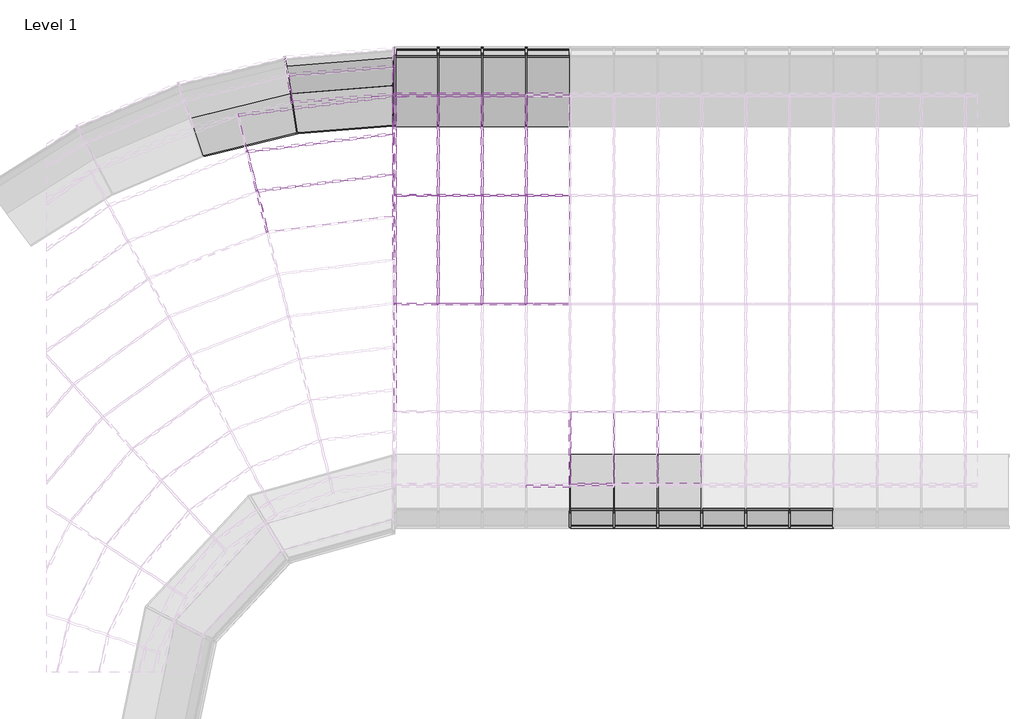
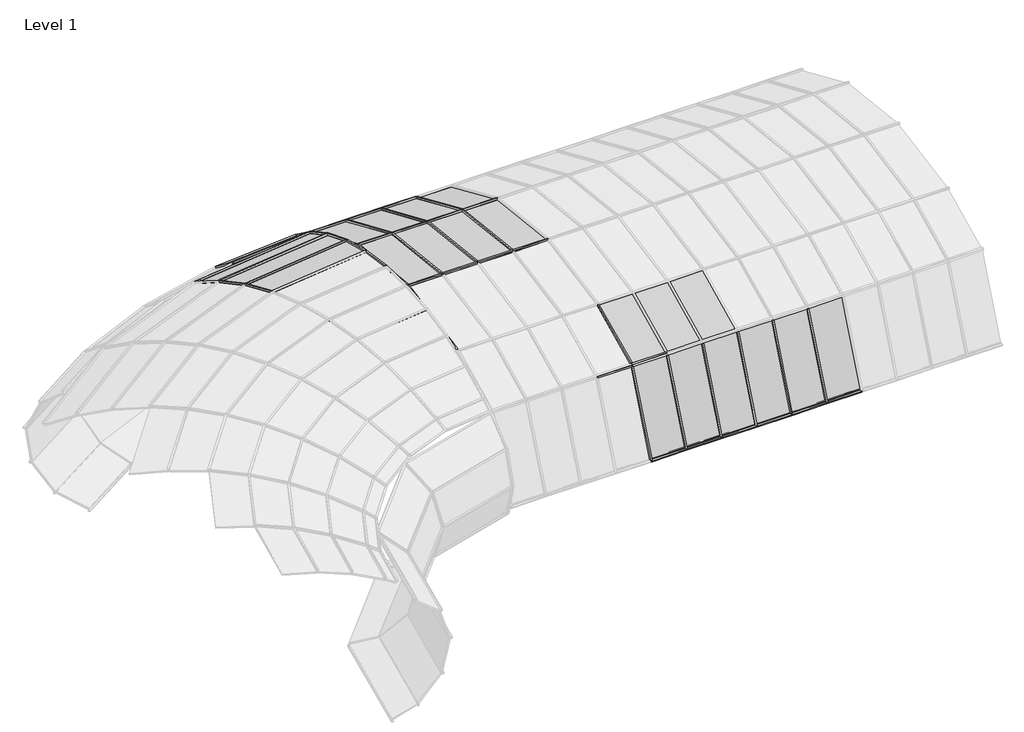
# One storey, part 17 of 23: 73 members, 35 plates.
"""IFC4 building model written with IfcOpenShell, lengths in millimetres."""

from ifc_helpers import new_model, si_unit, origin, place, context, project, spatial, transform, mapped, element, save
from components import member_e3cda178, member_5c7fdabc, member_447cb305, member_9c203333, member_b8d5ad2c, member_f15ee7b7, member_0b29da72, member_7a2ca0a4, member_e6283771, member_68981e21, member_3e1f1dd8, member_d6b8231b, member_8c9da58c, member_01ebdf2a, member_0cd36c09, member_f53a45b1, member_b799f41d, member_a86ed3bc, member_8df4d526, member_0f8f75f6, member_42213d33, member_14e241b9, member_67cfadff, member_309acb9e, member_25f397f4, member_ca6af547, member_12ee2c91, member_00f58b5b, member_1d69e541, member_3d0f16ec, system_panel_glazed_4989902e, system_panel_glazed_3bd09d45, system_panel_glazed_8ed0c2f1, system_panel_glazed_c0d17033, system_panel_glazed_51f493bd, system_panel_glazed_6e806f8e, system_panel_glazed_a1f64e1d, system_panel_glazed_6ab21abb, system_panel_glazed_3957fabc, system_panel_glazed_dfe8d515, system_panel_glazed_035c538e, system_panel_glazed_ea3045b6, system_panel_glazed_7f1dd4a7, system_panel_glazed_0de345d1

model = new_model("IFC4")

# Units and contexts
model_context = context("Model", 3, world=origin())
ifc_project = project(units=[si_unit("LENGTHUNIT", "METRE", prefix="MILLI")], contexts=[model_context])

# Site, building, storey
site = spatial("IfcSite", under=ifc_project)
building = spatial("IfcBuilding", under=site)
storey = spatial("IfcBuildingStorey", under=building, Name="Level 1", Elevation=0.0)

# Members
placement = place(None, origin())
member_shape = member_e3cda178(model_context)
element("IfcMember", 1, ObjectType="Rectangular Mullion : 1\" Square", at=placement, inside=storey, context=model_context, shape_type="MappedRepresentation", body=[
    mapped(member_shape, transform((-11947.494964, 6755.4298316, 2378.3537392), x_axis=(0.11179864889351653, -0.8986414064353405, 0.4241988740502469), y_axis=(-0.05237023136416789, 0.42095373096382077, 0.9055690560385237), z_axis=(-0.9923499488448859, -0.12345679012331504, 0.0))),
])
member_2_shape = member_5c7fdabc(model_context)
element("IfcMember", 2, ObjectType="Rectangular Mullion : 1\" Square", at=placement, inside=storey, context=model_context, shape_type="MappedRepresentation", body=[
    mapped(member_2_shape, transform((-11808.8699791, 6206.916685, 2605.3528615), x_axis=(0.11721409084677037, -0.9421709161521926, 0.31396627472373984), y_axis=(-0.03876126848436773, 0.3115644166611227, 0.9494341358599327), z_axis=(-0.992349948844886, -0.12345679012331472, 0.0))),
])
member_3_shape = member_447cb305(model_context)
element("IfcMember", 3, ObjectType="Rectangular Mullion : 1\" Square", at=placement, inside=storey, context=model_context, shape_type="MappedRepresentation", body=[
    mapped(member_3_shape, transform((-9938.1556701, 7540.1167728, 2085.6089632), x_axis=(-0.10809684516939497, 0.868886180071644, -0.4830650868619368), y_axis=(-0.059637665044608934, 0.47936961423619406, 0.8755844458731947), z_axis=(0.9923499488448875, 0.12345679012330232, 0.0))),
])
member_4_shape = member_9c203333(model_context)
element("IfcMember", 4, ObjectType="Rectangular Mullion : 1\" Square", at=placement, inside=storey, context=model_context, shape_type="MappedRepresentation", body=[
    mapped(member_4_shape, transform((-11274.5302395, 7000.5494364, 0.0), x_axis=(0.22840078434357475, -0.9320944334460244, -0.2811281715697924), y_axis=(-0.06690829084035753, 0.2730500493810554, -0.9596702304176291), z_axis=(0.9712653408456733, 0.23799923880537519, 0.0))),
])
member_5_shape = member_b8d5ad2c(model_context)
element("IfcMember", 5, ObjectType="Rectangular Mullion : 1\" Square", at=placement, inside=storey, context=model_context, shape_type="MappedRepresentation", body=[
    mapped(member_5_shape, transform((-11342.8806242, 7582.2581608, 170.8694653), x_axis=(-0.0675368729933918, 0.8413340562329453, 0.5362795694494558), y_axis=(-0.04291103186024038, 0.534560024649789, -0.8440404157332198), z_axis=(-0.9967935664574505, -0.08001616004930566, 0.0))),
])
member_6_shape = member_f15ee7b7(model_context)
element("IfcMember", 6, ObjectType="Rectangular Mullion : 1\" Square", at=placement, inside=storey, context=model_context, shape_type="MappedRepresentation", body=[
    mapped(member_6_shape, transform((-9938.268538, 7109.8483199, 0.0), x_axis=(0.0767891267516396, -0.9565931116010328, -0.28112817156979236), y_axis=(-0.022494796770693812, 0.2802267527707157, -0.9596702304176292), z_axis=(0.9967935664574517, 0.08001616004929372, 0.0))),
])
member_7_shape = member_0b29da72(model_context)
element("IfcMember", 7, ObjectType="Rectangular Mullion : 1\" Square", at=placement, inside=storey, context=model_context, shape_type="MappedRepresentation", body=[
    mapped(member_7_shape, transform((-11406.8901733, 7978.385404, 629.7792003), x_axis=(-0.033789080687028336, 0.4209242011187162, 0.9064662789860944), y_axis=(-0.07253195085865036, 0.9035597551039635, -0.42227820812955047), z_axis=(-0.9967935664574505, -0.08001616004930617, 0.0))),
])
member_8_shape = member_7a2ca0a4(model_context)
element("IfcMember", 8, ObjectType="Rectangular Mullion : 1\" Square", at=placement, inside=storey, context=model_context, shape_type="MappedRepresentation", body=[
    mapped(member_8_shape, transform((-11381.9802385, 7824.2286581, 1789.6405438), x_axis=(0.051802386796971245, -0.6453232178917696, 0.762151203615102), y_axis=(-0.06098441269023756, 0.759707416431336, 0.6473990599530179), z_axis=(-0.9967935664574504, -0.08001616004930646, 0.0))),
])
member_9_shape = member_e6283771(model_context)
element("IfcMember", 9, ObjectType="Rectangular Mullion : 1\" Square", at=placement, inside=storey, context=model_context, shape_type="MappedRepresentation", body=[
    mapped(member_9_shape, transform((-11318.3479775, 7430.4362864, 2085.6089632), x_axis=(0.06418665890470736, -0.7995990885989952, 0.5970941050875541), y_axis=(-0.04777717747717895, 0.5951795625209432, 0.8021711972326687), z_axis=(-0.9967935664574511, -0.08001616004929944, 0.0))),
])
member_10_shape = member_68981e21(model_context)
element("IfcMember", 10, ObjectType="Rectangular Mullion : 1\" Square", at=placement, inside=storey, context=model_context, shape_type="MappedRepresentation", body=[
    mapped(member_10_shape, transform((-7474.5499814, 2539.8807303, 0.0), x_axis=(0.0, 0.8307182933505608, -0.5566930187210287), y_axis=(0.0, -0.5566930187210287, -0.8307182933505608), z_axis=(-1.0, 0.0, 0.0))),
])
element("IfcMember", 11, ObjectType="Rectangular Mullion : 1\" Square", at=placement, inside=storey, context=model_context, shape_type="MappedRepresentation", body=[
    mapped(member_10_shape, transform((-6864.9499814, 2539.8807303, 0.0), x_axis=(0.0, 0.8307182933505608, -0.5566930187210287), y_axis=(0.0, -0.5566930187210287, -0.8307182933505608), z_axis=(-1.0, 0.0, 0.0))),
])
element("IfcMember", 12, ObjectType="Rectangular Mullion : 1\" Square", at=placement, inside=storey, context=model_context, shape_type="MappedRepresentation", body=[
    mapped(member_10_shape, transform((-7474.5499814, 2108.5088854, 2085.6089632), x_axis=(0.0, -0.9009025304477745, -0.43402146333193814), y_axis=(0.0, -0.43402146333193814, 0.9009025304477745), z_axis=(-1.0, 0.0, 0.0))),
])
element("IfcMember", 13, ObjectType="Rectangular Mullion : 1\" Square", at=placement, inside=storey, context=model_context, shape_type="MappedRepresentation", body=[
    mapped(member_10_shape, transform((-8693.7499814, 7543.2525753, 2085.6089632), x_axis=(0.0, 0.9167487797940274, -0.3994642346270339), y_axis=(0.0, 0.3994642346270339, 0.9167487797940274), z_axis=(1.0, 0.0, 0.0))),
])
element("IfcMember", 14, ObjectType="Rectangular Mullion : 1\" Square", at=placement, inside=storey, context=model_context, shape_type="MappedRepresentation", body=[
    mapped(member_10_shape, transform((-8084.1499814, 7543.2525753, 2085.6089632), x_axis=(0.0, 0.9167487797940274, -0.3994642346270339), y_axis=(0.0, 0.3994642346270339, 0.9167487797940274), z_axis=(1.0, 0.0, 0.0))),
])
element("IfcMember", 15, ObjectType="Rectangular Mullion : 1\" Square", at=placement, inside=storey, context=model_context, shape_type="MappedRepresentation", body=[
    mapped(member_10_shape, transform((-8084.1499814, 7111.8807303, 0.0), x_axis=(0.0, -0.7134126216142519, -0.7007441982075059), y_axis=(0.0, 0.7007441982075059, -0.7134126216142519), z_axis=(1.0, 0.0, 0.0))),
])
element("IfcMember", 16, ObjectType="Rectangular Mullion : 1\" Square", at=placement, inside=storey, context=model_context, shape_type="MappedRepresentation", body=[
    mapped(member_10_shape, transform((-8693.7499814, 7111.8807303, 0.0), x_axis=(0.0, -0.7134126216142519, -0.7007441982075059), y_axis=(0.0, 0.7007441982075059, -0.7134126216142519), z_axis=(1.0, 0.0, 0.0))),
])
member_11_shape = member_3e1f1dd8(model_context)
element("IfcMember", 17, ObjectType="Rectangular Mullion : 1\" Square", at=placement, inside=storey, context=model_context, shape_type="MappedRepresentation", body=[
    mapped(member_11_shape, transform((-7474.5499814, 1534.1192339, 673.9955146), x_axis=(0.0, 0.38018576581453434, -0.9249101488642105), y_axis=(0.0, -0.9249101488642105, -0.38018576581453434), z_axis=(-1.0, 0.0, 0.0))),
])
element("IfcMember", 18, ObjectType="Rectangular Mullion : 1\" Square", at=placement, inside=storey, context=model_context, shape_type="MappedRepresentation", body=[
    mapped(member_11_shape, transform((-6864.9499814, 1534.1192339, 673.9955146), x_axis=(0.0, 0.38018576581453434, -0.9249101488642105), y_axis=(0.0, -0.9249101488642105, -0.38018576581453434), z_axis=(-1.0, 0.0, 0.0))),
])
element("IfcMember", 19, ObjectType="Rectangular Mullion : 1\" Square", at=placement, inside=storey, context=model_context, shape_type="MappedRepresentation", body=[
    mapped(member_11_shape, transform((-6255.3499814, 1534.1192339, 673.9955146), x_axis=(0.0, 0.38018576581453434, -0.9249101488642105), y_axis=(0.0, -0.9249101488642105, -0.38018576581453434), z_axis=(-1.0, 0.0, 0.0))),
])
element("IfcMember", 20, ObjectType="Rectangular Mullion : 1\" Square", at=placement, inside=storey, context=model_context, shape_type="MappedRepresentation", body=[
    mapped(member_11_shape, transform((-5645.7499814, 1534.1192339, 673.9955146), x_axis=(0.0, 0.38018576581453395, -0.9249101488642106), y_axis=(0.0, -0.9249101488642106, -0.38018576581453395), z_axis=(-1.0, 0.0, 0.0))),
])
element("IfcMember", 21, ObjectType="Rectangular Mullion : 1\" Square", at=placement, inside=storey, context=model_context, shape_type="MappedRepresentation", body=[
    mapped(member_11_shape, transform((-5036.1499814, 1534.1192339, 673.9955146), x_axis=(0.0, 0.38018576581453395, -0.9249101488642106), y_axis=(0.0, -0.9249101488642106, -0.38018576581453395), z_axis=(-1.0, 0.0, 0.0))),
])
element("IfcMember", 22, ObjectType="Rectangular Mullion : 1\" Square", at=placement, inside=storey, context=model_context, shape_type="MappedRepresentation", body=[
    mapped(member_11_shape, transform((-4426.5499814, 1534.1192339, 673.9955146), x_axis=(0.0, 0.38018576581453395, -0.9249101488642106), y_axis=(0.0, -0.9249101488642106, -0.38018576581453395), z_axis=(-1.0, 0.0, 0.0))),
])
element("IfcMember", 23, ObjectType="Rectangular Mullion : 1\" Square", at=placement, inside=storey, context=model_context, shape_type="MappedRepresentation", body=[
    mapped(member_11_shape, transform((-9303.3499814, 4631.6132499, 2864.1651971), x_axis=(0.0, -0.9992773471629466, -0.038010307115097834), y_axis=(0.0, -0.038010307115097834, 0.9992773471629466), z_axis=(-1.0, 0.0, 0.0))),
])
element("IfcMember", 24, ObjectType="Rectangular Mullion : 1\" Square", at=placement, inside=storey, context=model_context, shape_type="MappedRepresentation", body=[
    mapped(member_11_shape, transform((-8693.7499814, 4631.6132499, 2864.1651971), x_axis=(0.0, -0.9992773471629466, -0.038010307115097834), y_axis=(0.0, -0.038010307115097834, 0.9992773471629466), z_axis=(-1.0, 0.0, 0.0))),
])
element("IfcMember", 25, ObjectType="Rectangular Mullion : 1\" Square", at=placement, inside=storey, context=model_context, shape_type="MappedRepresentation", body=[
    mapped(member_11_shape, transform((-8084.1499814, 4631.6132499, 2864.1651971), x_axis=(0.0, -0.9992773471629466, -0.038010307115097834), y_axis=(0.0, -0.038010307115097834, 0.9992773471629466), z_axis=(-1.0, 0.0, 0.0))),
])
element("IfcMember", 26, ObjectType="Rectangular Mullion : 1\" Square", at=placement, inside=storey, context=model_context, shape_type="MappedRepresentation", body=[
    mapped(member_11_shape, transform((-9912.9499814, 4631.6132499, 2864.1651971), x_axis=(0.0, -0.9992773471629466, -0.038010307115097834), y_axis=(0.0, -0.038010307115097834, 0.9992773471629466), z_axis=(-1.0, 0.0, 0.0))),
])
element("IfcMember", 27, ObjectType="Rectangular Mullion : 1\" Square", at=placement, inside=storey, context=model_context, shape_type="MappedRepresentation", body=[
    mapped(member_10_shape, transform((-7474.5499814, 2108.5088854, 2085.6089632), x_axis=(0.0, 0.3768960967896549, 0.9262555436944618), y_axis=(0.0, -0.9262555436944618, 0.3768960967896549), z_axis=(1.0, 0.0, 0.0))),
])
element("IfcMember", 28, ObjectType="Rectangular Mullion : 1\" Square", at=placement, inside=storey, context=model_context, shape_type="MappedRepresentation", body=[
    mapped(member_10_shape, transform((-9303.3499814, 7543.2525753, 2085.6089632), x_axis=(0.0, -0.5417212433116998, 0.8405582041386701), y_axis=(0.0, 0.8405582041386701, 0.5417212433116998), z_axis=(-1.0, 0.0, 0.0))),
])
element("IfcMember", 29, ObjectType="Rectangular Mullion : 1\" Square", at=placement, inside=storey, context=model_context, shape_type="MappedRepresentation", body=[
    mapped(member_10_shape, transform((-8693.7499814, 7543.2525753, 2085.6089632), x_axis=(0.0, -0.5417212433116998, 0.8405582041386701), y_axis=(0.0, 0.8405582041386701, 0.5417212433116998), z_axis=(-1.0, 0.0, 0.0))),
])
element("IfcMember", 30, ObjectType="Rectangular Mullion : 1\" Square", at=placement, inside=storey, context=model_context, shape_type="MappedRepresentation", body=[
    mapped(member_10_shape, transform((-8084.1499814, 7543.2525753, 2085.6089632), x_axis=(0.0, -0.5417212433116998, 0.8405582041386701), y_axis=(0.0, 0.8405582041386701, 0.5417212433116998), z_axis=(-1.0, 0.0, 0.0))),
])
element("IfcMember", 31, ObjectType="Rectangular Mullion : 1\" Square", at=placement, inside=storey, context=model_context, shape_type="MappedRepresentation", body=[
    mapped(member_11_shape, transform((-9303.3499814, 6146.1274349, 2694.3924567), x_axis=(0.0, -0.9660596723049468, 0.25831900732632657), y_axis=(0.0, 0.25831900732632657, 0.9660596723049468), z_axis=(-1.0, 0.0, 0.0))),
])
element("IfcMember", 32, ObjectType="Rectangular Mullion : 1\" Square", at=placement, inside=storey, context=model_context, shape_type="MappedRepresentation", body=[
    mapped(member_11_shape, transform((-8693.7499814, 6146.1274349, 2694.3924567), x_axis=(0.0, -0.9660596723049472, 0.25831900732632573), y_axis=(0.0, 0.25831900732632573, 0.9660596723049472), z_axis=(-1.0, 0.0, 0.0))),
])
element("IfcMember", 33, ObjectType="Rectangular Mullion : 1\" Square", at=placement, inside=storey, context=model_context, shape_type="MappedRepresentation", body=[
    mapped(member_11_shape, transform((-8084.1499814, 6146.1274349, 2694.3924567), x_axis=(0.0, -0.9660596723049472, 0.25831900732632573), y_axis=(0.0, 0.25831900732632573, 0.9660596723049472), z_axis=(-1.0, 0.0, 0.0))),
])
element("IfcMember", 34, ObjectType="Rectangular Mullion : 1\" Square", at=placement, inside=storey, context=model_context, shape_type="MappedRepresentation", body=[
    mapped(member_10_shape, transform((-9303.3499814, 7543.2525753, 2085.6089632), x_axis=(0.0, 0.9167487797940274, -0.3994642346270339), y_axis=(0.0, 0.3994642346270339, 0.9167487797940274), z_axis=(1.0, 0.0, 0.0))),
])
element("IfcMember", 35, ObjectType="Rectangular Mullion : 1\" Square", at=placement, inside=storey, context=model_context, shape_type="MappedRepresentation", body=[
    mapped(member_10_shape, transform((-9303.3499814, 7111.8807303, 0.0), x_axis=(0.0, -0.7134126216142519, -0.7007441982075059), y_axis=(0.0, 0.7007441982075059, -0.7134126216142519), z_axis=(1.0, 0.0, 0.0))),
])
element("IfcMember", 36, ObjectType="Rectangular Mullion : 1\" Square", at=placement, inside=storey, context=model_context, shape_type="MappedRepresentation", body=[
    mapped(member_11_shape, transform((-9912.9499814, 6146.1274349, 2694.3924567), x_axis=(0.0, -0.9660596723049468, 0.25831900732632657), y_axis=(0.0, 0.25831900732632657, 0.9660596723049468), z_axis=(-1.0, 0.0, 0.0))),
])
element("IfcMember", 37, ObjectType="Rectangular Mullion : 1\" Square", at=placement, inside=storey, context=model_context, shape_type="MappedRepresentation", body=[
    mapped(member_10_shape, transform((-9912.9499814, 7543.2525753, 2085.6089632), x_axis=(0.0, -0.5417212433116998, 0.8405582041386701), y_axis=(0.0, 0.8405582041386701, 0.5417212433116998), z_axis=(-1.0, 0.0, 0.0))),
])
member_12_shape = member_d6b8231b(model_context)
element("IfcMember", 38, ObjectType="Rectangular Mullion : 1\" Square", at=placement, inside=storey, context=model_context, shape_type="MappedRepresentation", body=[
    mapped(member_12_shape, transform((-11262.1951697, 7003.5720267, 0.0), x_axis=(-0.9871948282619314, -0.1595191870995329, 0.0), y_axis=(-0.04471285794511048, 0.2767084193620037, -0.9599131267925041), z_axis=(0.15312456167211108, -0.9476212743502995, -0.2802976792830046))),
])
member_13_shape = member_8c9da58c(model_context)
element("IfcMember", 39, ObjectType="Rectangular Mullion : 1\" Square", at=placement, inside=storey, context=model_context, shape_type="MappedRepresentation", body=[
    mapped(member_13_shape, transform((-11355.5399025, 7581.2419556, 170.8694653), x_axis=(-0.9871948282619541, -0.15951918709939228, 0.0), y_axis=(-0.12008679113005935, 0.7431648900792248, -0.6582439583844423), z_axis=(0.10500254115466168, -0.6498150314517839, -0.7528046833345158))),
])
element("IfcMember", 40, ObjectType="Rectangular Mullion : 1\" Square", at=placement, inside=storey, context=model_context, shape_type="MappedRepresentation", body=[
    mapped(member_13_shape, transform((-11419.5494516, 7977.3691988, 629.7792003), x_axis=(-0.9871948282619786, -0.1595191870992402, 0.0), y_axis=(-0.15772138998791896, 0.9760690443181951, -0.14971033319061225), z_axis=(0.02388167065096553, -0.14779326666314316, -0.9887299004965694))),
])
member_14_shape = member_01ebdf2a(model_context)
element("IfcMember", 41, ObjectType="Rectangular Mullion : 1\" Square", at=placement, inside=storey, context=model_context, shape_type="MappedRepresentation", body=[
    mapped(member_14_shape, transform((-11394.6395168, 7823.2124528, 1789.6405438), x_axis=(-0.9871948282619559, -0.15951918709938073, 0.0), y_axis=(-0.09505110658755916, 0.5882299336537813, 0.803088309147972), z_axis=(-0.12810799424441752, 0.7928046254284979, -0.5958600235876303))),
])
member_15_shape = member_0cd36c09(model_context)
element("IfcMember", 42, ObjectType="Rectangular Mullion : 1\" Square", at=placement, inside=storey, context=model_context, shape_type="MappedRepresentation", body=[
    mapped(member_15_shape, transform((-11960.0978083, 6753.8619304, 2378.3537392), x_axis=(-0.9695168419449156, -0.24502467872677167, 0.0), y_axis=(-0.09124079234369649, 0.3610227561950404, 0.9280828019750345), z_axis=(-0.22740319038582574, 0.8997919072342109, -0.37237388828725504))),
])
element("IfcMember", 43, ObjectType="Rectangular Mullion : 1\" Square", at=placement, inside=storey, context=model_context, shape_type="MappedRepresentation", body=[
    mapped(member_15_shape, transform((-11821.4728235, 6205.3487837, 2605.3528615), x_axis=(-0.9695168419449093, -0.2450246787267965, 0.0), y_axis=(-0.06351674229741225, 0.2513238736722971, 0.9658167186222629), z_axis=(-0.23664893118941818, 0.936375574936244, -0.25922589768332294))),
])
member_16_shape = member_f53a45b1(model_context)
element("IfcMember", 44, ObjectType="Rectangular Mullion : 1\" Square", at=placement, inside=storey, context=model_context, shape_type="MappedRepresentation", body=[
    mapped(member_16_shape, transform((-9912.9499814, 7543.2525753, 2085.6089632), x_axis=(0.998858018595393, 0.028468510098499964, 0.03836929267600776), y_axis=(-0.047777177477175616, 0.5951795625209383, 0.8021711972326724), z_axis=(0.0, -0.8030883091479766, 0.595860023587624))),
])
member_17_shape = member_b799f41d(model_context)
element("IfcMember", 45, ObjectType="Rectangular Mullion : 1\" Square", at=placement, inside=storey, context=model_context, shape_type="MappedRepresentation", body=[
    mapped(member_17_shape, transform((-9912.9499814, 7008.5445652, 2378.3537392), x_axis=(0.9982200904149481, 0.02863946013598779, 0.05231092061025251), y_axis=(-0.059637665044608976, 0.47936961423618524, 0.8755844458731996), z_axis=(0.0, -0.8771456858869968, 0.48022437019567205))),
])
member_18_shape = member_a86ed3bc(model_context)
element("IfcMember", 46, ObjectType="Rectangular Mullion : 1\" Square", at=placement, inside=storey, context=model_context, shape_type="MappedRepresentation", body=[
    mapped(member_18_shape, transform((-9912.9499814, 7697.0437724, 170.8694653), x_axis=(0.9997469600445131, 0.006305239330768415, -0.021593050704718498), y_axis=(-0.022494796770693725, 0.28022675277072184, -0.9596702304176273), z_axis=(0.0, 0.9599131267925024, 0.28029767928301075))),
])
member_19_shape = member_8df4d526(model_context)
element("IfcMember", 47, ObjectType="Rectangular Mullion : 1\" Square", at=placement, inside=storey, context=model_context, shape_type="MappedRepresentation", body=[
    mapped(member_19_shape, transform((-9912.9499814, 7942.1529346, 1789.6405438), x_axis=(0.9973196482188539, 0.06687018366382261, 0.029696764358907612), y_axis=(-0.07316774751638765, 0.9114801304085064, 0.4047844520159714), z_axis=(0.0, -0.40587233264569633, 0.9139297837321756))),
])
member_20_shape = member_0f8f75f6(model_context)
element("IfcMember", 48, ObjectType="Rectangular Mullion : 1\" Square", at=placement, inside=storey, context=model_context, shape_type="MappedRepresentation", body=[
    mapped(member_20_shape, transform((-6864.9499814, 2518.7804857, 14.1400027), x_axis=(1.0, 0.0, 0.0), y_axis=(0.0, -0.5566930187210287, -0.8307182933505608), z_axis=(0.0, 0.8307182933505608, -0.5566930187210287))),
])
element("IfcMember", 49, ObjectType="Rectangular Mullion : 1\" Square", at=placement, inside=storey, context=model_context, shape_type="MappedRepresentation", body=[
    mapped(member_20_shape, transform((-6255.3499814, 2518.7804857, 14.1400027), x_axis=(1.0, 0.0, 0.0), y_axis=(0.0, -0.5566930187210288, -0.8307182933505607), z_axis=(0.0, 0.8307182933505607, -0.5566930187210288))),
])
element("IfcMember", 50, ObjectType="Rectangular Mullion : 1\" Square", at=placement, inside=storey, context=model_context, shape_type="MappedRepresentation", body=[
    mapped(member_20_shape, transform((-7474.5499814, 2518.7804857, 14.1400027), x_axis=(1.0, 0.0, 0.0), y_axis=(0.0, -0.5566930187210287, -0.8307182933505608), z_axis=(0.0, 0.8307182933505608, -0.5566930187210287))),
])
member_21_shape = member_42213d33(model_context)
element("IfcMember", 51, ObjectType="Rectangular Mullion : 1\" Square", at=placement, inside=storey, context=model_context, shape_type="MappedRepresentation", body=[
    mapped(member_21_shape, transform((-6864.9499814, 1538.9058143, 685.75896), x_axis=(1.0, 0.0, 0.0), y_axis=(0.0, -0.9262555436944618, 0.3768960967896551), z_axis=(0.0, -0.3768960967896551, -0.9262555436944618))),
])
element("IfcMember", 52, ObjectType="Rectangular Mullion : 1\" Square", at=placement, inside=storey, context=model_context, shape_type="MappedRepresentation", body=[
    mapped(member_21_shape, transform((-6255.3499814, 1538.9058143, 685.75896), x_axis=(1.0, 0.0, 0.0), y_axis=(0.0, -0.9262555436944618, 0.3768960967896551), z_axis=(0.0, -0.3768960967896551, -0.9262555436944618))),
])
element("IfcMember", 53, ObjectType="Rectangular Mullion : 1\" Square", at=placement, inside=storey, context=model_context, shape_type="MappedRepresentation", body=[
    mapped(member_21_shape, transform((-5645.7499814, 1538.9058143, 685.75896), x_axis=(1.0, 0.0, 0.0), y_axis=(0.0, -0.9262555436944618, 0.37689609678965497), z_axis=(0.0, -0.37689609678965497, -0.9262555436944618))),
])
element("IfcMember", 54, ObjectType="Rectangular Mullion : 1\" Square", at=placement, inside=storey, context=model_context, shape_type="MappedRepresentation", body=[
    mapped(member_21_shape, transform((-5036.1499814, 1538.9058143, 685.75896), x_axis=(1.0, 0.0, 0.0), y_axis=(0.0, -0.9262555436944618, 0.37689609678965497), z_axis=(0.0, -0.37689609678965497, -0.9262555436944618))),
])
element("IfcMember", 55, ObjectType="Rectangular Mullion : 1\" Square", at=placement, inside=storey, context=model_context, shape_type="MappedRepresentation", body=[
    mapped(member_21_shape, transform((-4426.5499814, 1538.9058143, 685.75896), x_axis=(1.0, 0.0, 0.0), y_axis=(0.0, -0.9262555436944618, 0.37689609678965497), z_axis=(0.0, -0.37689609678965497, -0.9262555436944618))),
])
element("IfcMember", 56, ObjectType="Rectangular Mullion : 1\" Square", at=placement, inside=storey, context=model_context, shape_type="MappedRepresentation", body=[
    mapped(member_21_shape, transform((-7474.5499814, 1538.9058143, 685.75896), x_axis=(1.0, 0.0, 0.0), y_axis=(0.0, -0.9262555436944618, 0.3768960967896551), z_axis=(0.0, -0.3768960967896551, -0.9262555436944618))),
])
member_22_shape = member_14e241b9(model_context)
element("IfcMember", 57, ObjectType="Rectangular Mullion : 1\" Square", at=placement, inside=storey, context=model_context, shape_type="MappedRepresentation", body=[
    mapped(member_22_shape, transform((-7474.5499814, 2131.3918096, 2096.6331083), x_axis=(1.0, 0.0, 0.0), y_axis=(0.0, -0.4340214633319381, 0.9009025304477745), z_axis=(0.0, -0.9009025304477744, -0.43402146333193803))),
])
member_23_shape = member_67cfadff(model_context)
element("IfcMember", 58, ObjectType="Rectangular Mullion : 1\" Square", at=placement, inside=storey, context=model_context, shape_type="MappedRepresentation", body=[
    mapped(member_23_shape, transform((-8693.7499814, 6157.7701444, 2689.3192609), x_axis=(1.0, 0.0, 0.0), y_axis=(0.0, 0.3994642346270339, 0.9167487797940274), z_axis=(0.0, -0.9167487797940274, 0.3994642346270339))),
])
element("IfcMember", 59, ObjectType="Rectangular Mullion : 1\" Square", at=placement, inside=storey, context=model_context, shape_type="MappedRepresentation", body=[
    mapped(member_23_shape, transform((-9303.3499814, 6157.7701444, 2689.3192609), x_axis=(1.0, 0.0, 0.0), y_axis=(0.0, 0.399464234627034, 0.9167487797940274), z_axis=(0.0, -0.9167487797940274, 0.399464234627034))),
])
element("IfcMember", 60, ObjectType="Rectangular Mullion : 1\" Square", at=placement, inside=storey, context=model_context, shape_type="MappedRepresentation", body=[
    mapped(member_23_shape, transform((-8084.1499814, 6157.7701444, 2689.3192609), x_axis=(1.0, 0.0, 0.0), y_axis=(0.0, 0.3994642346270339, 0.9167487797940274), z_axis=(0.0, -0.9167487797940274, 0.3994642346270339))),
])
member_24_shape = member_309acb9e(model_context)
element("IfcMember", 61, ObjectType="Rectangular Mullion : 1\" Square", at=placement, inside=storey, context=model_context, shape_type="MappedRepresentation", body=[
    mapped(member_24_shape, transform((-8693.7499814, 4644.2342014, 2862.7504243), x_axis=(1.0, 0.0, 0.0), y_axis=(0.0, 0.11139943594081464, 0.9937757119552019), z_axis=(0.0, -0.9937757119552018, 0.11139943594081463))),
])
element("IfcMember", 62, ObjectType="Rectangular Mullion : 1\" Square", at=placement, inside=storey, context=model_context, shape_type="MappedRepresentation", body=[
    mapped(member_24_shape, transform((-9303.3499814, 4644.2342014, 2862.7504243), x_axis=(1.0, 0.0, 0.0), y_axis=(0.0, 0.11139943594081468, 0.9937757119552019), z_axis=(0.0, -0.9937757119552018, 0.11139943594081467))),
])
element("IfcMember", 63, ObjectType="Rectangular Mullion : 1\" Square", at=placement, inside=storey, context=model_context, shape_type="MappedRepresentation", body=[
    mapped(member_24_shape, transform((-8084.1499814, 4644.2342014, 2862.7504243), x_axis=(1.0, 0.0, 0.0), y_axis=(0.0, 0.11139943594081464, 0.9937757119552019), z_axis=(0.0, -0.9937757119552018, 0.11139943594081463))),
])
element("IfcMember", 64, ObjectType="Rectangular Mullion : 1\" Square", at=placement, inside=storey, context=model_context, shape_type="MappedRepresentation", body=[
    mapped(member_20_shape, transform((-8084.1499814, 7557.0122949, 2064.2587848), x_axis=(1.0, 0.0, 0.0), y_axis=(0.0, 0.8405582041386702, 0.5417212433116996), z_axis=(0.0, -0.5417212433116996, 0.8405582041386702))),
])
element("IfcMember", 65, ObjectType="Rectangular Mullion : 1\" Square", at=placement, inside=storey, context=model_context, shape_type="MappedRepresentation", body=[
    mapped(member_20_shape, transform((-8693.7499814, 7557.0122949, 2064.2587848), x_axis=(1.0, 0.0, 0.0), y_axis=(0.0, 0.8405582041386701, 0.5417212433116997), z_axis=(0.0, -0.5417212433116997, 0.8405582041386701))),
])
element("IfcMember", 66, ObjectType="Rectangular Mullion : 1\" Square", at=placement, inside=storey, context=model_context, shape_type="MappedRepresentation", body=[
    mapped(member_20_shape, transform((-9303.3499814, 7557.0122949, 2064.2587848), x_axis=(1.0, 0.0, 0.0), y_axis=(0.0, 0.8405582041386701, 0.5417212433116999), z_axis=(0.0, -0.5417212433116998, 0.84055820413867))),
])
member_25_shape = member_25f397f4(model_context)
element("IfcMember", 67, ObjectType="Rectangular Mullion : 1\" Square", at=placement, inside=storey, context=model_context, shape_type="MappedRepresentation", body=[
    mapped(member_25_shape, transform((-9912.9499814, 7130.0014109, 17.7989026), x_axis=(-1.0, 0.0, 0.0), y_axis=(0.0, 0.700744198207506, -0.7134126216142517), z_axis=(0.0, -0.7134126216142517, -0.700744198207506))),
])
member_26_shape = member_ca6af547(model_context)
element("IfcMember", 68, ObjectType="Rectangular Mullion : 1\" Square", at=placement, inside=storey, context=model_context, shape_type="MappedRepresentation", body=[
    mapped(member_26_shape, transform((-9912.9499814, 5250.6348627, 2850.17796), x_axis=(0.9998431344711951, 0.002521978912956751, 0.017531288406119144), y_axis=(-0.017711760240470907, 0.14236774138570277, 0.9896553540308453), z_axis=(0.0, -0.9898106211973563, 0.14239007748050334))),
])
member_27_shape = member_12ee2c91(model_context)
element("IfcMember", 69, ObjectType="Rectangular Mullion : 1\" Square", at=placement, inside=storey, context=model_context, shape_type="MappedRepresentation", body=[
    mapped(member_27_shape, transform((-9912.9499814, 6442.7852891, 2605.3528615), x_axis=(0.9989286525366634, 0.017232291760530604, 0.04294875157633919), y_axis=(-0.04627685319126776, 0.37197494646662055, 0.9270885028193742), z_axis=(0.0, -0.9280828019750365, 0.3723738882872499))),
])
member_28_shape = member_00f58b5b(model_context)
element("IfcMember", 70, ObjectType="Rectangular Mullion : 1\" Square", at=placement, inside=storey, context=model_context, shape_type="MappedRepresentation", body=[
    mapped(member_28_shape, transform((-9912.9499814, 5854.0234174, 2763.3769688), x_axis=(0.9994803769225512, 0.008355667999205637, 0.031131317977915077), y_axis=(-0.0322331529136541, 0.2590911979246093, 0.9653148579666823), z_axis=(0.0, -0.9658167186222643, 0.2592258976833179))),
])
member_29_shape = member_1d69e541(model_context)
element("IfcMember", 71, ObjectType="Rectangular Mullion : 1\" Square", at=placement, inside=storey, context=model_context, shape_type="MappedRepresentation", body=[
    mapped(member_29_shape, transform((-9912.9499814, 6133.5064834, 2695.8072296), x_axis=(-1.0, 0.0, 0.0), y_axis=(0.0, 0.11139943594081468, 0.9937757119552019), z_axis=(0.0, 0.9937757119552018, -0.11139943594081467))),
])
element("IfcMember", 72, ObjectType="Rectangular Mullion : 1\" Square", at=placement, inside=storey, context=model_context, shape_type="MappedRepresentation", body=[
    mapped(member_29_shape, transform((-9912.9499814, 4619.1362416, 2861.7957532), x_axis=(-1.0, 0.0, 0.0), y_axis=(0.0, -0.18657038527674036, 0.9824415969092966), z_axis=(0.0, 0.9824415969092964, 0.18657038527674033))),
])
member_30_shape = member_3d0f16ec(model_context)
element("IfcMember", 73, ObjectType="Rectangular Mullion : 1\" Square", at=placement, inside=storey, context=model_context, shape_type="MappedRepresentation", body=[
    mapped(member_30_shape, transform((-9912.9499814, 7519.9671563, 2095.7553547), x_axis=(-1.0, 0.0, 0.0), y_axis=(0.0, 0.399464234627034, 0.9167487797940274), z_axis=(0.0, 0.9167487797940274, -0.399464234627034))),
])

# Plates
system_panel_glazed_shape = system_panel_glazed_4989902e(model_context)
element("IfcPlate", 74, ObjectType="System Panel : Glazed", at=placement, inside=storey, context=model_context, shape_type="MappedRepresentation", body=[
    mapped(system_panel_glazed_shape, transform((-9887.5499814, 6838.8686503, 2392.5373078), x_axis=(0.0, -0.9167487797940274, 0.3994642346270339), y_axis=(0.0, -0.3994642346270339, -0.9167487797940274), z_axis=(1.0, 0.0, 0.0))),
])
element("IfcPlate", 75, ObjectType="System Panel : Glazed", at=placement, inside=storey, context=model_context, shape_type="MappedRepresentation", body=[
    mapped(system_panel_glazed_shape, transform((-9887.5499814, 7660.0313181, 538.4168047), x_axis=(0.0, 0.7134126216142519, 0.7007441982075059), y_axis=(0.0, -0.7007441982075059, 0.7134126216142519), z_axis=(1.0, 0.0, 0.0))),
])
system_panel_glazed_2_shape = system_panel_glazed_3bd09d45(model_context)
element("IfcPlate", 76, ObjectType="System Panel : Glazed", at=placement, inside=storey, context=model_context, shape_type="MappedRepresentation", body=[
    mapped(system_panel_glazed_2_shape, transform((-10595.8714126, 7081.5142355, 7.1406556), x_axis=(-0.9967935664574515, -0.08001616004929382, 0.0), y_axis=(0.022494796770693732, -0.2802267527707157, 0.9596702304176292), z_axis=(-0.07678912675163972, 0.9565931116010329, 0.28112817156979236))),
])
system_panel_glazed_3_shape = system_panel_glazed_8ed0c2f1(model_context)
element("IfcPlate", 77, ObjectType="System Panel : Glazed", at=placement, inside=storey, context=model_context, shape_type="MappedRepresentation", body=[
    mapped(system_panel_glazed_3_shape, transform((-11005.6252618, 7384.9031665, 2097.8788164), x_axis=(-0.9923499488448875, -0.12345679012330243, 0.0), y_axis=(0.059637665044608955, -0.4793696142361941, -0.8755844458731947), z_axis=(0.10809684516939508, -0.868886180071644, 0.4830650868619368))),
])
system_panel_glazed_4_shape = system_panel_glazed_c0d17033(model_context)
element("IfcPlate", 78, ObjectType="System Panel : Glazed", at=placement, inside=storey, context=model_context, shape_type="MappedRepresentation", body=[
    mapped(system_panel_glazed_4_shape, transform((-9887.5499814, 5388.8703424, 2779.2788269), x_axis=(0.0, -0.9937757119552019, 0.11139943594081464), y_axis=(0.0, -0.11139943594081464, -0.9937757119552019), z_axis=(1.0, 0.0, 0.0))),
])
system_panel_glazed_5_shape = system_panel_glazed_51f493bd(model_context)
element("IfcPlate", 79, ObjectType="System Panel : Glazed", at=placement, inside=storey, context=model_context, shape_type="MappedRepresentation", body=[
    mapped(system_panel_glazed_5_shape, transform((-9290.6499814, 6838.8686503, 2392.5373078), x_axis=(0.0, -0.9167487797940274, 0.3994642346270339), y_axis=(0.0, -0.3994642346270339, -0.9167487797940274), z_axis=(1.0, 0.0, 0.0))),
])
element("IfcPlate", 80, ObjectType="System Panel : Glazed", at=placement, inside=storey, context=model_context, shape_type="MappedRepresentation", body=[
    mapped(system_panel_glazed_5_shape, transform((-8681.0499814, 6838.8686503, 2392.5373078), x_axis=(0.0, -0.9167487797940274, 0.3994642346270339), y_axis=(0.0, -0.3994642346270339, -0.9167487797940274), z_axis=(1.0, 0.0, 0.0))),
])
element("IfcPlate", 81, ObjectType="System Panel : Glazed", at=placement, inside=storey, context=model_context, shape_type="MappedRepresentation", body=[
    mapped(system_panel_glazed_5_shape, transform((-8071.4499814, 6838.8686503, 2392.5373078), x_axis=(0.0, -0.9167487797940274, 0.3994642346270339), y_axis=(0.0, -0.3994642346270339, -0.9167487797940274), z_axis=(1.0, 0.0, 0.0))),
])
element("IfcPlate", 82, ObjectType="System Panel : Glazed", at=placement, inside=storey, context=model_context, shape_type="MappedRepresentation", body=[
    mapped(system_panel_glazed_5_shape, transform((-7461.8499814, 1818.9207694, 1373.9205162), x_axis=(0.0, -0.3768960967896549, -0.9262555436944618), y_axis=(0.0, 0.9262555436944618, -0.3768960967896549), z_axis=(1.0, 0.0, 0.0))),
])
element("IfcPlate", 83, ObjectType="System Panel : Glazed", at=placement, inside=storey, context=model_context, shape_type="MappedRepresentation", body=[
    mapped(system_panel_glazed_5_shape, transform((-6852.2499814, 1818.9207694, 1373.9205162), x_axis=(0.0, -0.3768960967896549, -0.9262555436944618), y_axis=(0.0, 0.9262555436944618, -0.3768960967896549), z_axis=(1.0, 0.0, 0.0))),
])
element("IfcPlate", 84, ObjectType="System Panel : Glazed", at=placement, inside=storey, context=model_context, shape_type="MappedRepresentation", body=[
    mapped(system_panel_glazed_5_shape, transform((-6242.6499814, 1818.9207694, 1373.9205162), x_axis=(0.0, -0.3768960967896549, -0.9262555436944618), y_axis=(0.0, 0.9262555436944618, -0.3768960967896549), z_axis=(1.0, 0.0, 0.0))),
])
element("IfcPlate", 85, ObjectType="System Panel : Glazed", at=placement, inside=storey, context=model_context, shape_type="MappedRepresentation", body=[
    mapped(system_panel_glazed_5_shape, transform((-5633.0499814, 1818.9207694, 1373.9205162), x_axis=(0.0, -0.3768960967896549, -0.9262555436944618), y_axis=(0.0, 0.9262555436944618, -0.3768960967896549), z_axis=(1.0, 0.0, 0.0))),
])
element("IfcPlate", 86, ObjectType="System Panel : Glazed", at=placement, inside=storey, context=model_context, shape_type="MappedRepresentation", body=[
    mapped(system_panel_glazed_5_shape, transform((-5023.4499814, 1818.9207694, 1373.9205162), x_axis=(0.0, -0.3768960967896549, -0.9262555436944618), y_axis=(0.0, 0.9262555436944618, -0.3768960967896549), z_axis=(1.0, 0.0, 0.0))),
])
element("IfcPlate", 87, ObjectType="System Panel : Glazed", at=placement, inside=storey, context=model_context, shape_type="MappedRepresentation", body=[
    mapped(system_panel_glazed_5_shape, transform((-4413.8499814, 1818.9207694, 1373.9205162), x_axis=(0.0, -0.37689609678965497, -0.9262555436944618), y_axis=(0.0, 0.9262555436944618, -0.37689609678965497), z_axis=(1.0, 0.0, 0.0))),
])
element("IfcPlate", 88, ObjectType="System Panel : Glazed", at=placement, inside=storey, context=model_context, shape_type="MappedRepresentation", body=[
    mapped(system_panel_glazed_5_shape, transform((-9290.6499814, 7660.0313181, 538.4168047), x_axis=(0.0, 0.7134126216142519, 0.7007441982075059), y_axis=(0.0, -0.7007441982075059, 0.7134126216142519), z_axis=(1.0, 0.0, 0.0))),
])
element("IfcPlate", 89, ObjectType="System Panel : Glazed", at=placement, inside=storey, context=model_context, shape_type="MappedRepresentation", body=[
    mapped(system_panel_glazed_5_shape, transform((-8681.0499814, 7660.0313181, 538.4168047), x_axis=(0.0, 0.7134126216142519, 0.7007441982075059), y_axis=(0.0, -0.7007441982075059, 0.7134126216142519), z_axis=(1.0, 0.0, 0.0))),
])
element("IfcPlate", 90, ObjectType="System Panel : Glazed", at=placement, inside=storey, context=model_context, shape_type="MappedRepresentation", body=[
    mapped(system_panel_glazed_5_shape, transform((-8071.4499814, 7660.0313181, 538.4168047), x_axis=(0.0, 0.7134126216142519, 0.7007441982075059), y_axis=(0.0, -0.7007441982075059, 0.7134126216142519), z_axis=(1.0, 0.0, 0.0))),
])
system_panel_glazed_6_shape = system_panel_glazed_6e806f8e(model_context)
element("IfcPlate", 91, ObjectType="System Panel : Glazed", at=placement, inside=storey, context=model_context, shape_type="MappedRepresentation", body=[
    mapped(system_panel_glazed_6_shape, transform((-9290.6499814, 5388.8703424, 2779.2788269), x_axis=(0.0, -0.9937757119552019, 0.11139943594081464), y_axis=(0.0, -0.11139943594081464, -0.9937757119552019), z_axis=(1.0, 0.0, 0.0))),
])
element("IfcPlate", 92, ObjectType="System Panel : Glazed", at=placement, inside=storey, context=model_context, shape_type="MappedRepresentation", body=[
    mapped(system_panel_glazed_6_shape, transform((-8681.0499814, 5388.8703424, 2779.2788269), x_axis=(0.0, -0.9937757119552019, 0.11139943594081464), y_axis=(0.0, -0.11139943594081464, -0.9937757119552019), z_axis=(1.0, 0.0, 0.0))),
])
element("IfcPlate", 93, ObjectType="System Panel : Glazed", at=placement, inside=storey, context=model_context, shape_type="MappedRepresentation", body=[
    mapped(system_panel_glazed_6_shape, transform((-8071.4499814, 5388.8703424, 2779.2788269), x_axis=(0.0, -0.9937757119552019, 0.11139943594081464), y_axis=(0.0, -0.11139943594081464, -0.9937757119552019), z_axis=(1.0, 0.0, 0.0))),
])
system_panel_glazed_7_shape = system_panel_glazed_a1f64e1d(model_context)
element("IfcPlate", 94, ObjectType="System Panel : Glazed", at=placement, inside=storey, context=model_context, shape_type="MappedRepresentation", body=[
    mapped(system_panel_glazed_7_shape, transform((-7461.8499814, 2627.1613018, 2335.4764828), x_axis=(0.0, -0.9009025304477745, -0.43402146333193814), y_axis=(0.0, 0.43402146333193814, -0.9009025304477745), z_axis=(1.0, 0.0, 0.0))),
])
element("IfcPlate", 95, ObjectType="System Panel : Glazed", at=placement, inside=storey, context=model_context, shape_type="MappedRepresentation", body=[
    mapped(system_panel_glazed_7_shape, transform((-6852.2499814, 2627.1613018, 2335.4764828), x_axis=(0.0, -0.9009025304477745, -0.43402146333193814), y_axis=(0.0, 0.43402146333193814, -0.9009025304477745), z_axis=(1.0, 0.0, 0.0))),
])
element("IfcPlate", 96, ObjectType="System Panel : Glazed", at=placement, inside=storey, context=model_context, shape_type="MappedRepresentation", body=[
    mapped(system_panel_glazed_7_shape, transform((-6242.6499814, 2627.1613018, 2335.4764828), x_axis=(0.0, -0.9009025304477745, -0.43402146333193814), y_axis=(0.0, 0.43402146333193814, -0.9009025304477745), z_axis=(1.0, 0.0, 0.0))),
])
system_panel_glazed_8_shape = system_panel_glazed_6ab21abb(model_context)
element("IfcPlate", 97, ObjectType="System Panel : Glazed", at=placement, inside=storey, context=model_context, shape_type="MappedRepresentation", body=[
    mapped(system_panel_glazed_8_shape, transform((-9887.5499814, 7874.6270004, 1571.434016), x_axis=(0.0, -0.5417212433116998, 0.8405582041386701), y_axis=(0.0, -0.8405582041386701, -0.5417212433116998), z_axis=(1.0, 0.0, 0.0))),
])
system_panel_glazed_9_shape = system_panel_glazed_3957fabc(model_context)
element("IfcPlate", 98, ObjectType="System Panel : Glazed", at=placement, inside=storey, context=model_context, shape_type="MappedRepresentation", body=[
    mapped(system_panel_glazed_9_shape, transform((-7461.8499814, 2031.7249209, 340.532758), x_axis=(0.0, 0.8307182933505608, -0.5566930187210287), y_axis=(0.0, 0.5566930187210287, 0.8307182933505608), z_axis=(1.0, 0.0, 0.0))),
])
element("IfcPlate", 99, ObjectType="System Panel : Glazed", at=placement, inside=storey, context=model_context, shape_type="MappedRepresentation", body=[
    mapped(system_panel_glazed_9_shape, transform((-6852.2499814, 2031.7249209, 340.532758), x_axis=(0.0, 0.8307182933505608, -0.5566930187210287), y_axis=(0.0, 0.5566930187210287, 0.8307182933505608), z_axis=(1.0, 0.0, 0.0))),
])
element("IfcPlate", 100, ObjectType="System Panel : Glazed", at=placement, inside=storey, context=model_context, shape_type="MappedRepresentation", body=[
    mapped(system_panel_glazed_9_shape, transform((-6242.6499814, 2031.7249209, 340.532758), x_axis=(0.0, 0.8307182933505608, -0.5566930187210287), y_axis=(0.0, 0.5566930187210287, 0.8307182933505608), z_axis=(1.0, 0.0, 0.0))),
])
element("IfcPlate", 101, ObjectType="System Panel : Glazed", at=placement, inside=storey, context=model_context, shape_type="MappedRepresentation", body=[
    mapped(system_panel_glazed_9_shape, transform((-9290.6499814, 7874.6270004, 1571.434016), x_axis=(0.0, -0.5417212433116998, 0.8405582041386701), y_axis=(0.0, -0.8405582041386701, -0.5417212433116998), z_axis=(1.0, 0.0, 0.0))),
])
element("IfcPlate", 102, ObjectType="System Panel : Glazed", at=placement, inside=storey, context=model_context, shape_type="MappedRepresentation", body=[
    mapped(system_panel_glazed_9_shape, transform((-8681.0499814, 7874.6270004, 1571.434016), x_axis=(0.0, -0.5417212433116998, 0.8405582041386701), y_axis=(0.0, -0.8405582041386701, -0.5417212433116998), z_axis=(1.0, 0.0, 0.0))),
])
element("IfcPlate", 103, ObjectType="System Panel : Glazed", at=placement, inside=storey, context=model_context, shape_type="MappedRepresentation", body=[
    mapped(system_panel_glazed_9_shape, transform((-8071.4499814, 7874.6270004, 1571.434016), x_axis=(0.0, -0.5417212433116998, 0.8405582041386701), y_axis=(0.0, -0.8405582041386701, -0.5417212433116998), z_axis=(1.0, 0.0, 0.0))),
])
system_panel_glazed_10_shape = system_panel_glazed_dfe8d515(model_context)
element("IfcPlate", 104, ObjectType="System Panel : Glazed", at=placement, inside=storey, context=model_context, shape_type="MappedRepresentation", body=[
    mapped(system_panel_glazed_10_shape, transform((-11925.3418274, 6866.1710815, 7.1406556), x_axis=(-0.9712653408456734, -0.23799923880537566, 0.0), y_axis=(0.06690829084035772, -0.2730500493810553, 0.9596702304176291), z_axis=(-0.2284007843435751, 0.9320944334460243, 0.28112817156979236))),
])
system_panel_glazed_11_shape = system_panel_glazed_035c538e(model_context)
element("IfcPlate", 105, ObjectType="System Panel : Glazed", at=placement, inside=storey, context=model_context, shape_type="MappedRepresentation", body=[
    mapped(system_panel_glazed_11_shape, transform((-10641.251072, 7646.951775, 180.4433737), x_axis=(-0.9967935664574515, -0.08001616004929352, 0.0), y_axis=(0.06032026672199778, -0.751433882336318, 0.6570453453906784), z_axis=(-0.05257424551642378, 0.6549385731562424, 0.7538510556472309))),
])
system_panel_glazed_12_shape = system_panel_glazed_ea3045b6(model_context)
element("IfcPlate", 106, ObjectType="System Panel : Glazed", at=placement, inside=storey, context=model_context, shape_type="MappedRepresentation", body=[
    mapped(system_panel_glazed_12_shape, transform((-10659.3223269, 7872.0186303, 1797.2236389), x_axis=(-0.9967935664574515, -0.08001616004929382, 0.0), y_axis=(0.04777717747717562, -0.5951795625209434, -0.8021711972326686), z_axis=(0.06418665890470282, -0.7995990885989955, 0.5970941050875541))),
])
system_panel_glazed_13_shape = system_panel_glazed_7f1dd4a7(model_context)
element("IfcPlate", 107, ObjectType="System Panel : Glazed", at=placement, inside=storey, context=model_context, shape_type="MappedRepresentation", body=[
    mapped(system_panel_glazed_13_shape, transform((-10941.4135086, 6868.7301479, 2383.1142391), x_axis=(-0.9923499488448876, -0.12345679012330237, 0.0), y_axis=(0.04627685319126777, -0.3719749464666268, -0.9270885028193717), z_axis=(0.11445537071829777, -0.9199962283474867, 0.37484251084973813))),
])
system_panel_glazed_14_shape = system_panel_glazed_0de345d1(model_context)
element("IfcPlate", 108, ObjectType="System Panel : Glazed", at=placement, inside=storey, context=model_context, shape_type="MappedRepresentation", body=[
    mapped(system_panel_glazed_14_shape, transform((-10872.0445845, 6311.1117399, 2608.668686), x_axis=(-0.9923499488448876, -0.12345679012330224, 0.0), y_axis=(0.0322331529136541, -0.2590911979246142, -0.965314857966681), z_axis=(0.11917467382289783, -0.9579301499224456, 0.2610885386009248))),
])

save(model, "model.ifc")
